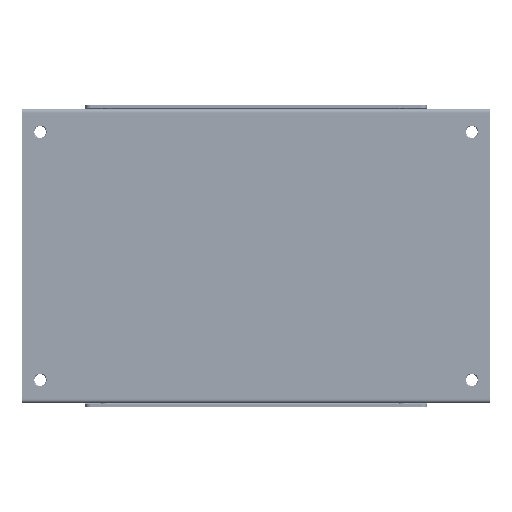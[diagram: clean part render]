
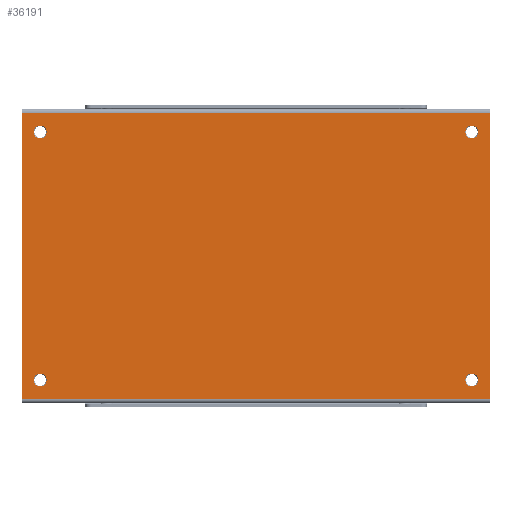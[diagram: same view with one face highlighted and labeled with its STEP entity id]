
A CAD part, front view. The second image highlights one B-rep face of the part: STEP entity #36191.
In plain terms, the highlighted planar face has unit normal (0, -1, 0).
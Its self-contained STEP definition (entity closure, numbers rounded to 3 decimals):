
#237 = EDGE_CURVE ( 'NONE', #92467, #32870, #105753, .T. ) ;
#1423 = CIRCLE ( 'NONE', #46617, 1.8 ) ;
#2549 = DIRECTION ( 'NONE',  ( 0., 1., 0. ) ) ;
#3844 = AXIS2_PLACEMENT_3D ( 'NONE', #174351, #95404, #134492 ) ;
#5842 = CARTESIAN_POINT ( 'NONE',  ( -65.981, -16.641, 244.364 ) ) ;
#8791 = VERTEX_POINT ( 'NONE', #163059 ) ;
#9310 = CARTESIAN_POINT ( 'NONE',  ( -65.981, -16.641, 245.364 ) ) ;
#9494 = AXIS2_PLACEMENT_3D ( 'NONE', #55529, #2549, #119498 ) ;
#12091 = EDGE_LOOP ( 'NONE', ( #56061, #27218 ) ) ;
#14004 = DIRECTION ( 'NONE',  ( 1., 0., 0. ) ) ;
#16526 = AXIS2_PLACEMENT_3D ( 'NONE', #142992, #90664, #144754 ) ;
#18869 = EDGE_CURVE ( 'NONE', #142607, #107744, #26673, .T. ) ;
#18992 = DIRECTION ( 'NONE',  ( -0.866, 0., 0.5 ) ) ;
#21254 = ORIENTED_EDGE ( 'NONE', *, *, #117763, .F. ) ;
#21733 = PLANE ( 'NONE',  #149485 ) ;
#23454 = DIRECTION ( 'NONE',  ( 0., 1., 0. ) ) ;
#23492 = CARTESIAN_POINT ( 'NONE',  ( 59.968, -16.641, 238.104 ) ) ;
#24044 = EDGE_LOOP ( 'NONE', ( #21254, #103288, #154522, #152501 ) ) ;
#24315 = FACE_OUTER_BOUND ( 'NONE', #24044, .T. ) ;
#26233 = LINE ( 'NONE', #42950, #115497 ) ;
#26673 = CIRCLE ( 'NONE', #111312, 1.8 ) ;
#26871 = EDGE_LOOP ( 'NONE', ( #77792, #57257 ) ) ;
#27192 = ORIENTED_EDGE ( 'NONE', *, *, #237, .T. ) ;
#27218 = ORIENTED_EDGE ( 'NONE', *, *, #18869, .T. ) ;
#32870 = VERTEX_POINT ( 'NONE', #69726 ) ;
#32954 = VERTEX_POINT ( 'NONE', #164466 ) ;
#35850 = FACE_BOUND ( 'NONE', #12091, .T. ) ;
#36191 = ADVANCED_FACE ( 'NONE', ( #24315, #75533, #35850, #145394, #63126 ), #21733, .F. ) ;
#36586 = CARTESIAN_POINT ( 'NONE',  ( -60.971, -16.641, 239.004 ) ) ;
#39938 = EDGE_CURVE ( 'NONE', #107744, #142607, #1423, .T. ) ;
#41839 = EDGE_CURVE ( 'NONE', #66856, #87721, #47581, .T. ) ;
#42950 = CARTESIAN_POINT ( 'NONE',  ( 63.419, -16.641, 245.364 ) ) ;
#43757 = AXIS2_PLACEMENT_3D ( 'NONE', #114671, #127104, #60708 ) ;
#46356 = VECTOR ( 'NONE', #141761, 1000. ) ;
#46617 = AXIS2_PLACEMENT_3D ( 'NONE', #36586, #47239, #18992 ) ;
#47239 = DIRECTION ( 'NONE',  ( 0., 1., 0. ) ) ;
#47581 = CIRCLE ( 'NONE', #16526, 1.8 ) ;
#49085 = DIRECTION ( 'NONE',  ( -1., 0., 0. ) ) ;
#50285 = EDGE_LOOP ( 'NONE', ( #151210, #151198 ) ) ;
#50329 = DIRECTION ( 'NONE',  ( 0., 1., 0. ) ) ;
#50521 = ORIENTED_EDGE ( 'NONE', *, *, #160781, .T. ) ;
#50648 = DIRECTION ( 'NONE',  ( -0.866, 0., 0.5 ) ) ;
#51812 = EDGE_CURVE ( 'NONE', #62862, #134049, #144042, .T. ) ;
#52317 = CARTESIAN_POINT ( 'NONE',  ( -65.981, -16.641, 244.364 ) ) ;
#54622 = CIRCLE ( 'NONE', #9494, 1.8 ) ;
#55459 = CARTESIAN_POINT ( 'NONE',  ( -60.971, -16.641, 239.004 ) ) ;
#55529 = CARTESIAN_POINT ( 'NONE',  ( 58.409, -16.641, 170.424 ) ) ;
#56061 = ORIENTED_EDGE ( 'NONE', *, *, #39938, .T. ) ;
#57257 = ORIENTED_EDGE ( 'NONE', *, *, #77457, .T. ) ;
#57741 = CARTESIAN_POINT ( 'NONE',  ( 56.85, -16.641, 171.324 ) ) ;
#60708 = DIRECTION ( 'NONE',  ( -0.866, 0., 0.5 ) ) ;
#62862 = VERTEX_POINT ( 'NONE', #143022 ) ;
#63126 = FACE_BOUND ( 'NONE', #26871, .T. ) ;
#66856 = VERTEX_POINT ( 'NONE', #80195 ) ;
#67244 = DIRECTION ( 'NONE',  ( -1., 0., 0. ) ) ;
#69726 = CARTESIAN_POINT ( 'NONE',  ( 56.85, -16.641, 239.904 ) ) ;
#70188 = EDGE_LOOP ( 'NONE', ( #27192, #50521 ) ) ;
#70392 = DIRECTION ( 'NONE',  ( -0.866, 0., 0.5 ) ) ;
#71454 = CIRCLE ( 'NONE', #3844, 1.8 ) ;
#73741 = VERTEX_POINT ( 'NONE', #5842 ) ;
#75533 = FACE_BOUND ( 'NONE', #70188, .T. ) ;
#77457 = EDGE_CURVE ( 'NONE', #87721, #66856, #54622, .T. ) ;
#77792 = ORIENTED_EDGE ( 'NONE', *, *, #41839, .T. ) ;
#80195 = CARTESIAN_POINT ( 'NONE',  ( 59.968, -16.641, 169.524 ) ) ;
#82094 = EDGE_CURVE ( 'NONE', #146623, #8791, #174982, .T. ) ;
#86856 = EDGE_CURVE ( 'NONE', #134049, #62862, #135327, .T. ) ;
#87182 = AXIS2_PLACEMENT_3D ( 'NONE', #89966, #50329, #120141 ) ;
#87721 = VERTEX_POINT ( 'NONE', #57741 ) ;
#88793 = VECTOR ( 'NONE', #67244, 1000. ) ;
#89966 = CARTESIAN_POINT ( 'NONE',  ( -60.971, -16.641, 170.424 ) ) ;
#90664 = DIRECTION ( 'NONE',  ( 0., 1., 0. ) ) ;
#92467 = VERTEX_POINT ( 'NONE', #23492 ) ;
#95404 = DIRECTION ( 'NONE',  ( 0., 1., 0. ) ) ;
#96745 = DIRECTION ( 'NONE',  ( 0., 0., 1. ) ) ;
#101005 = LINE ( 'NONE', #154194, #46356 ) ;
#103288 = ORIENTED_EDGE ( 'NONE', *, *, #82094, .T. ) ;
#104354 = AXIS2_PLACEMENT_3D ( 'NONE', #117837, #172698, #50648 ) ;
#105753 = CIRCLE ( 'NONE', #43757, 1.8 ) ;
#107744 = VERTEX_POINT ( 'NONE', #146497 ) ;
#109383 = DIRECTION ( 'NONE',  ( 0., 1., 0. ) ) ;
#111312 = AXIS2_PLACEMENT_3D ( 'NONE', #55459, #109383, #70392 ) ;
#114671 = CARTESIAN_POINT ( 'NONE',  ( 58.409, -16.641, 239.004 ) ) ;
#115497 = VECTOR ( 'NONE', #96745, 1000. ) ;
#117763 = EDGE_CURVE ( 'NONE', #146623, #73741, #101005, .T. ) ;
#117837 = CARTESIAN_POINT ( 'NONE',  ( -60.971, -16.641, 170.424 ) ) ;
#119498 = DIRECTION ( 'NONE',  ( -0.866, 0., 0.5 ) ) ;
#120141 = DIRECTION ( 'NONE',  ( -0.866, 0., 0.5 ) ) ;
#121009 = CARTESIAN_POINT ( 'NONE',  ( -65.981, -16.641, 165.064 ) ) ;
#122500 = EDGE_CURVE ( 'NONE', #32954, #73741, #174374, .T. ) ;
#127104 = DIRECTION ( 'NONE',  ( 0., 1., 0. ) ) ;
#134049 = VERTEX_POINT ( 'NONE', #147302 ) ;
#134492 = DIRECTION ( 'NONE',  ( -0.866, 0., 0.5 ) ) ;
#135327 = CIRCLE ( 'NONE', #87182, 1.8 ) ;
#141761 = DIRECTION ( 'NONE',  ( 0., 0., 1. ) ) ;
#142607 = VERTEX_POINT ( 'NONE', #143636 ) ;
#142992 = CARTESIAN_POINT ( 'NONE',  ( 58.409, -16.641, 170.424 ) ) ;
#143022 = CARTESIAN_POINT ( 'NONE',  ( -62.53, -16.641, 171.324 ) ) ;
#143636 = CARTESIAN_POINT ( 'NONE',  ( -62.53, -16.641, 239.904 ) ) ;
#144042 = CIRCLE ( 'NONE', #104354, 1.8 ) ;
#144754 = DIRECTION ( 'NONE',  ( -0.866, 0., 0.5 ) ) ;
#145394 = FACE_BOUND ( 'NONE', #50285, .T. ) ;
#146497 = CARTESIAN_POINT ( 'NONE',  ( -59.412, -16.641, 238.104 ) ) ;
#146623 = VERTEX_POINT ( 'NONE', #149682 ) ;
#147302 = CARTESIAN_POINT ( 'NONE',  ( -59.412, -16.641, 169.524 ) ) ;
#147309 = EDGE_CURVE ( 'NONE', #8791, #32954, #26233, .T. ) ;
#149485 = AXIS2_PLACEMENT_3D ( 'NONE', #9310, #23454, #49085 ) ;
#149682 = CARTESIAN_POINT ( 'NONE',  ( -65.981, -16.641, 165.064 ) ) ;
#151198 = ORIENTED_EDGE ( 'NONE', *, *, #51812, .T. ) ;
#151210 = ORIENTED_EDGE ( 'NONE', *, *, #86856, .T. ) ;
#152501 = ORIENTED_EDGE ( 'NONE', *, *, #122500, .T. ) ;
#154194 = CARTESIAN_POINT ( 'NONE',  ( -65.981, -16.641, 245.364 ) ) ;
#154522 = ORIENTED_EDGE ( 'NONE', *, *, #147309, .T. ) ;
#156361 = VECTOR ( 'NONE', #14004, 1000. ) ;
#160781 = EDGE_CURVE ( 'NONE', #32870, #92467, #71454, .T. ) ;
#163059 = CARTESIAN_POINT ( 'NONE',  ( 63.419, -16.641, 165.064 ) ) ;
#164466 = CARTESIAN_POINT ( 'NONE',  ( 63.419, -16.641, 244.364 ) ) ;
#172698 = DIRECTION ( 'NONE',  ( 0., 1., 0. ) ) ;
#174351 = CARTESIAN_POINT ( 'NONE',  ( 58.409, -16.641, 239.004 ) ) ;
#174374 = LINE ( 'NONE', #52317, #88793 ) ;
#174982 = LINE ( 'NONE', #121009, #156361 ) ;
